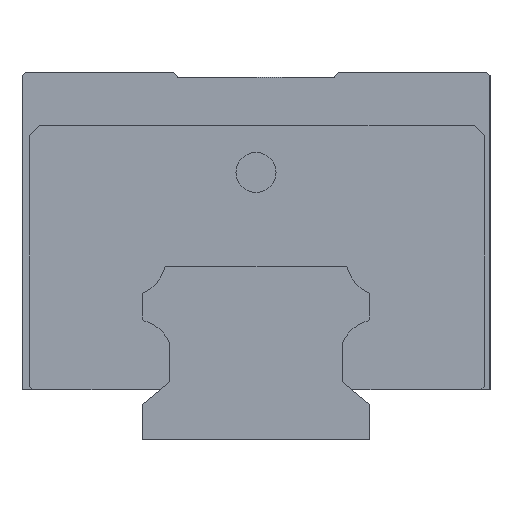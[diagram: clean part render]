
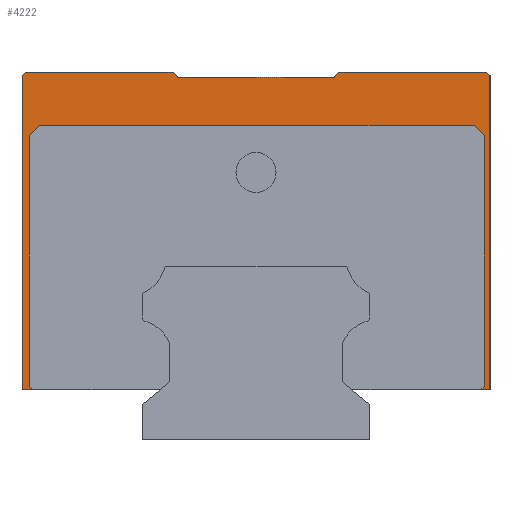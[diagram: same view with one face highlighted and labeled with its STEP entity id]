
A CAD part, left-side view. The second image highlights one B-rep face of the part: STEP entity #4222.
In plain terms, the highlighted planar face has unit normal (-1, 0, 0).
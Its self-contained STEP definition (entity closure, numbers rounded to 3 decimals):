
#2 = CARTESIAN_POINT ( 'NONE',  ( -61.5, -34.128, 45.5 ) ) ;
#54 = CARTESIAN_POINT ( 'NONE',  ( -61.5, 33.372, 7.5 ) ) ;
#71 = ORIENTED_EDGE ( 'NONE', *, *, #2959, .T. ) ;
#80 = CARTESIAN_POINT ( 'NONE',  ( -61.5, 35., 7.5 ) ) ;
#91 = ORIENTED_EDGE ( 'NONE', *, *, #1615, .F. ) ;
#96 = CARTESIAN_POINT ( 'NONE',  ( -61.5, -32.628, 47. ) ) ;
#132 = DIRECTION ( 'NONE',  ( 0., -0.707, 0.707 ) ) ;
#231 = LINE ( 'NONE', #2945, #1488 ) ;
#268 = ORIENTED_EDGE ( 'NONE', *, *, #5776, .F. ) ;
#276 = VERTEX_POINT ( 'NONE', #2252 ) ;
#301 = CARTESIAN_POINT ( 'NONE',  ( -61.5, -34.128, 8. ) ) ;
#329 = EDGE_CURVE ( 'NONE', #3059, #1270, #532, .T. ) ;
#355 = EDGE_CURVE ( 'NONE', #1270, #1321, #2366, .T. ) ;
#373 = CARTESIAN_POINT ( 'NONE',  ( -61.5, -35., 7.5 ) ) ;
#379 = VECTOR ( 'NONE', #132, 1000. ) ;
#429 = DIRECTION ( 'NONE',  ( 0., 0., -1. ) ) ;
#444 = DIRECTION ( 'NONE',  ( 1., 0., 0. ) ) ;
#446 = VERTEX_POINT ( 'NONE', #5267 ) ;
#532 = LINE ( 'NONE', #4138, #3390 ) ;
#587 = VERTEX_POINT ( 'NONE', #5293 ) ;
#626 = LINE ( 'NONE', #4180, #1128 ) ;
#706 = DIRECTION ( 'NONE',  ( 0., 1., 0. ) ) ;
#754 = EDGE_CURVE ( 'NONE', #807, #2098, #5439, .T. ) ;
#793 = VECTOR ( 'NONE', #5658, 1000. ) ;
#807 = VERTEX_POINT ( 'NONE', #54 ) ;
#811 = VECTOR ( 'NONE', #3661, 1000. ) ;
#824 = LINE ( 'NONE', #4341, #5795 ) ;
#838 = LINE ( 'NONE', #3502, #2902 ) ;
#961 = CARTESIAN_POINT ( 'NONE',  ( -61.5, 32.372, 47. ) ) ;
#988 = LINE ( 'NONE', #5017, #379 ) ;
#1003 = DIRECTION ( 'NONE',  ( 0., -1., 0. ) ) ;
#1013 = AXIS2_PLACEMENT_3D ( 'NONE', #3128, #444, #2249 ) ;
#1038 = ORIENTED_EDGE ( 'NONE', *, *, #355, .F. ) ;
#1047 = LINE ( 'NONE', #4992, #4083 ) ;
#1128 = VECTOR ( 'NONE', #1931, 1000. ) ;
#1141 = EDGE_CURVE ( 'NONE', #4193, #807, #1047, .T. ) ;
#1178 = DIRECTION ( 'NONE',  ( 0., 0.707, 0.707 ) ) ;
#1188 = VECTOR ( 'NONE', #4459, 1000. ) ;
#1270 = VERTEX_POINT ( 'NONE', #4704 ) ;
#1271 = CARTESIAN_POINT ( 'NONE',  ( -61.5, 12.296, 55. ) ) ;
#1286 = ORIENTED_EDGE ( 'NONE', *, *, #3343, .F. ) ;
#1295 = VERTEX_POINT ( 'NONE', #4350 ) ;
#1321 = VERTEX_POINT ( 'NONE', #5193 ) ;
#1322 = PLANE ( 'NONE',  #1013 ) ;
#1408 = ORIENTED_EDGE ( 'NONE', *, *, #329, .F. ) ;
#1412 = VECTOR ( 'NONE', #429, 1000. ) ;
#1488 = VECTOR ( 'NONE', #5229, 1000. ) ;
#1491 = CARTESIAN_POINT ( 'NONE',  ( -61.5, -35., 7.5 ) ) ;
#1495 = DIRECTION ( 'NONE',  ( 0., -0.707, -0.707 ) ) ;
#1496 = VECTOR ( 'NONE', #2857, 1000. ) ;
#1577 = ORIENTED_EDGE ( 'NONE', *, *, #3640, .F. ) ;
#1615 = EDGE_CURVE ( 'NONE', #446, #587, #2478, .T. ) ;
#1714 = LINE ( 'NONE', #2538, #2424 ) ;
#1745 = ORIENTED_EDGE ( 'NONE', *, *, #2989, .T. ) ;
#1772 = CARTESIAN_POINT ( 'NONE',  ( -61.5, 11.667, 54.25 ) ) ;
#1836 = LINE ( 'NONE', #5416, #1188 ) ;
#1893 = DIRECTION ( 'NONE',  ( 0., 1., 0. ) ) ;
#1931 = DIRECTION ( 'NONE',  ( 0., 1., 0. ) ) ;
#1949 = CARTESIAN_POINT ( 'NONE',  ( -61.5, 35., 55. ) ) ;
#2098 = VERTEX_POINT ( 'NONE', #80 ) ;
#2142 = CARTESIAN_POINT ( 'NONE',  ( -61.5, -35., 55. ) ) ;
#2249 = DIRECTION ( 'NONE',  ( 0., 1., 0. ) ) ;
#2252 = CARTESIAN_POINT ( 'NONE',  ( -61.5, 11.667, 54.25 ) ) ;
#2303 = VERTEX_POINT ( 'NONE', #1271 ) ;
#2316 = VERTEX_POINT ( 'NONE', #4347 ) ;
#2358 = CARTESIAN_POINT ( 'NONE',  ( -61.5, 14.65, 7.5 ) ) ;
#2366 = LINE ( 'NONE', #96, #3298 ) ;
#2397 = CARTESIAN_POINT ( 'NONE',  ( -61.5, 34.5, 55. ) ) ;
#2424 = VECTOR ( 'NONE', #5240, 1000. ) ;
#2478 = LINE ( 'NONE', #1949, #2605 ) ;
#2501 = ORIENTED_EDGE ( 'NONE', *, *, #3970, .F. ) ;
#2538 = CARTESIAN_POINT ( 'NONE',  ( -61.5, 34.5, 55. ) ) ;
#2605 = VECTOR ( 'NONE', #1003, 1000. ) ;
#2633 = EDGE_CURVE ( 'NONE', #5669, #2303, #1836, .T. ) ;
#2683 = FACE_OUTER_BOUND ( 'NONE', #3956, .T. ) ;
#2723 = CARTESIAN_POINT ( 'NONE',  ( -61.5, 35., 54.5 ) ) ;
#2802 = VECTOR ( 'NONE', #4674, 1000. ) ;
#2837 = EDGE_CURVE ( 'NONE', #4078, #587, #824, .T. ) ;
#2846 = LINE ( 'NONE', #1491, #3276 ) ;
#2857 = DIRECTION ( 'NONE',  ( 0., 1., 0. ) ) ;
#2902 = VECTOR ( 'NONE', #5307, 1000. ) ;
#2945 = CARTESIAN_POINT ( 'NONE',  ( -61.5, 35., 7.5 ) ) ;
#2959 = EDGE_CURVE ( 'NONE', #5669, #5417, #1714, .T. ) ;
#2989 = EDGE_CURVE ( 'NONE', #276, #2303, #5322, .T. ) ;
#3046 = CARTESIAN_POINT ( 'NONE',  ( -61.5, -35., 54.5 ) ) ;
#3059 = VERTEX_POINT ( 'NONE', #2 ) ;
#3128 = CARTESIAN_POINT ( 'NONE',  ( -61.5, -35., 55. ) ) ;
#3174 = ORIENTED_EDGE ( 'NONE', *, *, #5100, .F. ) ;
#3276 = VECTOR ( 'NONE', #706, 1000. ) ;
#3291 = ORIENTED_EDGE ( 'NONE', *, *, #1141, .F. ) ;
#3298 = VECTOR ( 'NONE', #1893, 1000. ) ;
#3342 = ORIENTED_EDGE ( 'NONE', *, *, #2837, .T. ) ;
#3343 = EDGE_CURVE ( 'NONE', #2098, #5417, #231, .T. ) ;
#3379 = VERTEX_POINT ( 'NONE', #4066 ) ;
#3390 = VECTOR ( 'NONE', #4633, 1000. ) ;
#3482 = ORIENTED_EDGE ( 'NONE', *, *, #5139, .T. ) ;
#3502 = CARTESIAN_POINT ( 'NONE',  ( -61.5, -12.296, 55. ) ) ;
#3530 = EDGE_CURVE ( 'NONE', #1321, #2316, #3774, .T. ) ;
#3557 = CARTESIAN_POINT ( 'NONE',  ( -61.5, 33.872, 45.5 ) ) ;
#3640 = EDGE_CURVE ( 'NONE', #4078, #3780, #3886, .T. ) ;
#3661 = DIRECTION ( 'NONE',  ( 0., 0.643, 0.766 ) ) ;
#3774 = LINE ( 'NONE', #961, #2802 ) ;
#3780 = VERTEX_POINT ( 'NONE', #373 ) ;
#3819 = EDGE_CURVE ( 'NONE', #446, #1295, #838, .T. ) ;
#3825 = VERTEX_POINT ( 'NONE', #5751 ) ;
#3886 = LINE ( 'NONE', #2142, #4127 ) ;
#3930 = ORIENTED_EDGE ( 'NONE', *, *, #3530, .F. ) ;
#3956 = EDGE_LOOP ( 'NONE', ( #268, #4563, #2501, #1577, #3342, #91, #4946, #3482, #1745, #4447, #71, #1286, #4966, #3291, #3174, #3930, #1038, #1408 ) ) ;
#3970 = EDGE_CURVE ( 'NONE', #3780, #3379, #2846, .T. ) ;
#4006 = LINE ( 'NONE', #3557, #1412 ) ;
#4066 = CARTESIAN_POINT ( 'NONE',  ( -61.5, -33.628, 7.5 ) ) ;
#4078 = VERTEX_POINT ( 'NONE', #3046 ) ;
#4083 = VECTOR ( 'NONE', #1495, 1000. ) ;
#4127 = VECTOR ( 'NONE', #5195, 1000. ) ;
#4138 = CARTESIAN_POINT ( 'NONE',  ( -61.5, -34.128, 45.5 ) ) ;
#4180 = CARTESIAN_POINT ( 'NONE',  ( -61.5, -11.667, 54.25 ) ) ;
#4193 = VERTEX_POINT ( 'NONE', #5409 ) ;
#4222 = ADVANCED_FACE ( 'NONE', ( #2683 ), #1322, .F. ) ;
#4341 = CARTESIAN_POINT ( 'NONE',  ( -61.5, -35., 54.5 ) ) ;
#4347 = CARTESIAN_POINT ( 'NONE',  ( -61.5, 33.872, 45.5 ) ) ;
#4350 = CARTESIAN_POINT ( 'NONE',  ( -61.5, -11.667, 54.25 ) ) ;
#4447 = ORIENTED_EDGE ( 'NONE', *, *, #2633, .F. ) ;
#4459 = DIRECTION ( 'NONE',  ( 0., -1., 0. ) ) ;
#4563 = ORIENTED_EDGE ( 'NONE', *, *, #5130, .F. ) ;
#4633 = DIRECTION ( 'NONE',  ( 0., 0.707, 0.707 ) ) ;
#4674 = DIRECTION ( 'NONE',  ( 0., 0.707, -0.707 ) ) ;
#4704 = CARTESIAN_POINT ( 'NONE',  ( -61.5, -32.628, 47. ) ) ;
#4946 = ORIENTED_EDGE ( 'NONE', *, *, #3819, .T. ) ;
#4966 = ORIENTED_EDGE ( 'NONE', *, *, #754, .F. ) ;
#4992 = CARTESIAN_POINT ( 'NONE',  ( -61.5, 33.872, 8. ) ) ;
#5017 = CARTESIAN_POINT ( 'NONE',  ( -61.5, -33.628, 7.5 ) ) ;
#5100 = EDGE_CURVE ( 'NONE', #2316, #4193, #4006, .T. ) ;
#5130 = EDGE_CURVE ( 'NONE', #3379, #3825, #988, .T. ) ;
#5139 = EDGE_CURVE ( 'NONE', #1295, #276, #626, .T. ) ;
#5186 = LINE ( 'NONE', #301, #793 ) ;
#5193 = CARTESIAN_POINT ( 'NONE',  ( -61.5, 32.372, 47. ) ) ;
#5195 = DIRECTION ( 'NONE',  ( 0., 0., -1. ) ) ;
#5229 = DIRECTION ( 'NONE',  ( 0., 0., 1. ) ) ;
#5240 = DIRECTION ( 'NONE',  ( 0., 0.707, -0.707 ) ) ;
#5267 = CARTESIAN_POINT ( 'NONE',  ( -61.5, -12.296, 55. ) ) ;
#5293 = CARTESIAN_POINT ( 'NONE',  ( -61.5, -34.5, 55. ) ) ;
#5307 = DIRECTION ( 'NONE',  ( 0., 0.643, -0.766 ) ) ;
#5322 = LINE ( 'NONE', #1772, #811 ) ;
#5409 = CARTESIAN_POINT ( 'NONE',  ( -61.5, 33.872, 8. ) ) ;
#5416 = CARTESIAN_POINT ( 'NONE',  ( -61.5, 35., 55. ) ) ;
#5417 = VERTEX_POINT ( 'NONE', #2723 ) ;
#5439 = LINE ( 'NONE', #2358, #1496 ) ;
#5658 = DIRECTION ( 'NONE',  ( 0., 0., 1. ) ) ;
#5669 = VERTEX_POINT ( 'NONE', #2397 ) ;
#5751 = CARTESIAN_POINT ( 'NONE',  ( -61.5, -34.128, 8. ) ) ;
#5776 = EDGE_CURVE ( 'NONE', #3825, #3059, #5186, .T. ) ;
#5795 = VECTOR ( 'NONE', #1178, 1000. ) ;
